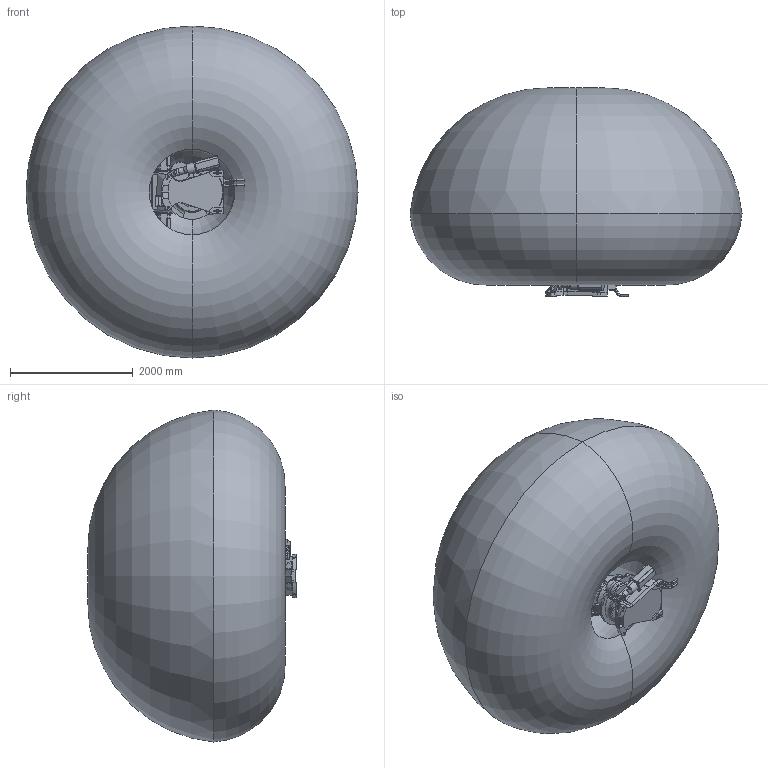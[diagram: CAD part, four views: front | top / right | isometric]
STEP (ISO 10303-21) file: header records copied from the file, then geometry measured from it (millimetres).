
FILE_DESCRIPTION (( 'STEP AP214' ), '1' );
FILE_NAME ('SMART NJ 500-2.7.STEP', '2008-10-06T08:17:46', ( 'Comau' ), ( 'Comau S.p.A.' ), 'SwSTEP 2.0', 'SolidWorks 2005235', '' );
FILE_SCHEMA (( 'AUTOMOTIVE_DESIGN' ));
Length unit declared in the file: millimetre
Products named in the file (19): SMART NJ 500-2.7_P04; SMART NJ 500-2.7_P05; SMART NJ 500-2.7_P06; SMART NJ 500-2.7_P07; SMART NJ 500-2.7_P08; SMART NJ 500-2.7_P09; SMART NJ 500-2.7_P10; SMART NJ 500-2.7_P11; SMART NJ 500-2.7_P12; SMART NJ 500-2.7_P14; SMART NJ 500-2.7_P13; SMART NJ 500-2.7_P01; SMART NJ 500-2.7_P02; SMART NJ 500-2.7; SMART NJ 500-2.7_CR82309760_LAFERT-SM; SMART NJ 500-2.7_P03; SMART NJ 500-2.7_CR82309740_LAFERT-SM; Operation area SMART NJ 500-2.7; SMART NJ 500-2.7_CR82309763_LAFERT-SM
Assembly tree (23 placements, depth 2):
  SMART NJ 500-2.7
    SMART NJ 500-2.7_CR82309760_LAFERT-SM
    SMART NJ 500-2.7_P09  x2
    SMART NJ 500-2.7_P07
    SMART NJ 500-2.7_P11
    SMART NJ 500-2.7_P13
    SMART NJ 500-2.7_CR82309763_LAFERT-SM  x2
    SMART NJ 500-2.7_P04
    SMART NJ 500-2.7_P01
    SMART NJ 500-2.7_P02
    SMART NJ 500-2.7_P03
    SMART NJ 500-2.7_P05
    SMART NJ 500-2.7_CR82309740_LAFERT-SM  x3
    SMART NJ 500-2.7_P12
    SMART NJ 500-2.7_P08  x2
    SMART NJ 500-2.7_P06
    SMART NJ 500-2.7_P14
    Operation area SMART NJ 500-2.7
    SMART NJ 500-2.7_P10
Bounding box: 5405.73 x 3391.75 x 5405.73 mm (x, y, z)
Volume: 47895233100.7 mm3; surface area: 108789491.4 mm2
Topology: 24 solids, 37 shells, 5118 faces, 13394 edges, 8429 vertices
Faces by surface type: plane 2182, cylinder 2092, bspline 405, torus 185, cone 173, sphere 81
Entity records: 172239 total; most frequent: CARTESIAN_POINT 56623, ORIENTED_EDGE 23804, DIRECTION 22162, EDGE_CURVE 11902, AXIS2_PLACEMENT_3D 8037, VERTEX_POINT 7635, VECTOR 6088, LINE 6088
